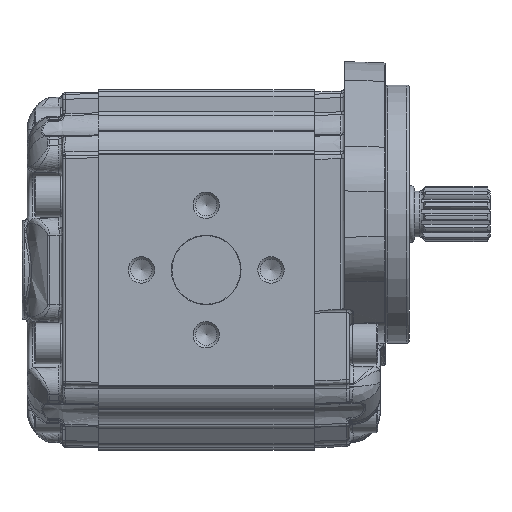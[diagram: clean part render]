
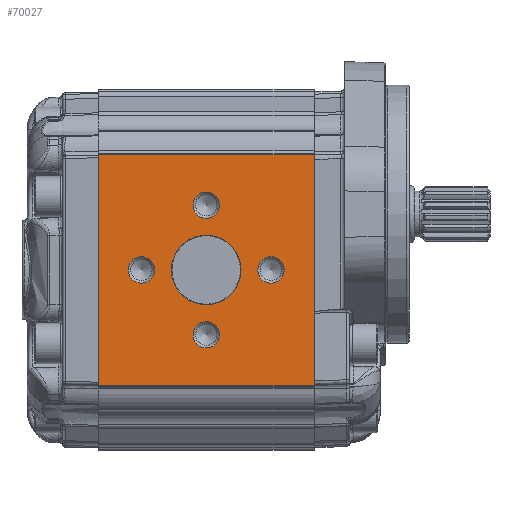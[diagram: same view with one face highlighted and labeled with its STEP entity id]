
A CAD part, left-side view. The second image highlights one B-rep face of the part: STEP entity #70027.
In plain terms, the highlighted planar face has unit normal (-1, 0, 0) as drawn and (1, 0, 0) by its records, which use the part's own axes.
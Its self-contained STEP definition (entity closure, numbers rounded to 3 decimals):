
#8105=LINE('',#122467,#10119);
#8116=LINE('',#122551,#10130);
#8162=LINE('',#122717,#10176);
#8163=LINE('',#122718,#10177);
#10119=VECTOR('',#77549,1000.);
#10130=VECTOR('',#77624,1000.);
#10176=VECTOR('',#77802,1000.);
#10177=VECTOR('',#77803,1000.);
#16526=ORIENTED_EDGE('',*,*,#29327,.T.);
#16527=ORIENTED_EDGE('',*,*,#29328,.T.);
#16528=ORIENTED_EDGE('',*,*,#29329,.T.);
#16529=ORIENTED_EDGE('',*,*,#29330,.T.);
#16530=ORIENTED_EDGE('',*,*,#29331,.T.);
#16531=ORIENTED_EDGE('',*,*,#29202,.F.);
#16532=ORIENTED_EDGE('',*,*,#29332,.T.);
#16533=ORIENTED_EDGE('',*,*,#29244,.F.);
#16534=ORIENTED_EDGE('',*,*,#29333,.T.);
#29202=EDGE_CURVE('',#35928,#35929,#8105,.T.);
#29244=EDGE_CURVE('',#35970,#35971,#8116,.T.);
#29327=EDGE_CURVE('',#36019,#36019,#39824,.F.);
#29328=EDGE_CURVE('',#36020,#36020,#39825,.F.);
#29329=EDGE_CURVE('',#36021,#36021,#39826,.F.);
#29330=EDGE_CURVE('',#36022,#36022,#39827,.F.);
#29331=EDGE_CURVE('',#36023,#36023,#39828,.F.);
#29332=EDGE_CURVE('',#35928,#35971,#8162,.F.);
#29333=EDGE_CURVE('',#35970,#35929,#8163,.F.);
#35928=VERTEX_POINT('',#122466);
#35929=VERTEX_POINT('',#122468);
#35970=VERTEX_POINT('',#122552);
#35971=VERTEX_POINT('',#122553);
#36019=VERTEX_POINT('',#122708);
#36020=VERTEX_POINT('',#122710);
#36021=VERTEX_POINT('',#122712);
#36022=VERTEX_POINT('',#122714);
#36023=VERTEX_POINT('',#122716);
#39824=CIRCLE('',#73302,5.188);
#39825=CIRCLE('',#73303,5.188);
#39826=CIRCLE('',#73304,5.188);
#39827=CIRCLE('',#73305,5.188);
#39828=CIRCLE('',#73306,13.7);
#41152=EDGE_LOOP('',(#16526));
#41153=EDGE_LOOP('',(#16527));
#41154=EDGE_LOOP('',(#16528));
#41155=EDGE_LOOP('',(#16529));
#41156=EDGE_LOOP('',(#16530));
#41157=EDGE_LOOP('',(#16531,#16532,#16533,#16534));
#44498=FACE_BOUND('',#41152,.T.);
#44499=FACE_BOUND('',#41153,.T.);
#44500=FACE_BOUND('',#41154,.T.);
#44501=FACE_BOUND('',#41155,.T.);
#44502=FACE_BOUND('',#41156,.T.);
#44503=FACE_BOUND('',#41157,.T.);
#46937=PLANE('',#73301);
#70027=ADVANCED_FACE('',(#44498,#44499,#44500,#44501,#44502,#44503),#46937,
 .T.);
#73301=AXIS2_PLACEMENT_3D('',#122706,#77790,#77791);
#73302=AXIS2_PLACEMENT_3D('',#122707,#77792,#77793);
#73303=AXIS2_PLACEMENT_3D('',#122709,#77794,#77795);
#73304=AXIS2_PLACEMENT_3D('',#122711,#77796,#77797);
#73305=AXIS2_PLACEMENT_3D('',#122713,#77798,#77799);
#73306=AXIS2_PLACEMENT_3D('',#122715,#77800,#77801);
#77549=DIRECTION('',(0.,0.,-1.));
#77624=DIRECTION('',(0.,0.,1.));
#77790=DIRECTION('',(1.,0.,0.));
#77791=DIRECTION('',(0.,0.,1.));
#77792=DIRECTION('',(1.,0.,0.));
#77793=DIRECTION('',(0.,0.,1.));
#77794=DIRECTION('',(1.,0.,0.));
#77795=DIRECTION('',(0.,0.,1.));
#77796=DIRECTION('',(1.,0.,0.));
#77797=DIRECTION('',(0.,0.,1.));
#77798=DIRECTION('',(1.,0.,0.));
#77799=DIRECTION('',(0.,0.,1.));
#77800=DIRECTION('',(1.,0.,0.));
#77801=DIRECTION('',(0.,0.,1.));
#77802=DIRECTION('',(0.,1.,0.));
#77803=DIRECTION('',(0.,-1.,0.));
#122466=CARTESIAN_POINT('',(57.5,85.,45.5));
#122467=CARTESIAN_POINT('',(57.5,85.,91.388));
#122468=CARTESIAN_POINT('',(57.5,85.,-45.5));
#122551=CARTESIAN_POINT('',(57.5,0.,-44.978));
#122552=CARTESIAN_POINT('',(57.5,0.,-45.5));
#122553=CARTESIAN_POINT('',(57.5,0.,45.5));
#122706=CARTESIAN_POINT('',(57.5,-142.954,91.388));
#122707=CARTESIAN_POINT('',(57.5,42.5,25.5));
#122708=CARTESIAN_POINT('',(57.5,42.5,30.688));
#122709=CARTESIAN_POINT('',(57.5,17.,0.));
#122710=CARTESIAN_POINT('',(57.5,17.,5.188));
#122711=CARTESIAN_POINT('',(57.5,42.5,-25.5));
#122712=CARTESIAN_POINT('',(57.5,42.5,-20.312));
#122713=CARTESIAN_POINT('',(57.5,68.,0.));
#122714=CARTESIAN_POINT('',(57.5,68.,5.188));
#122715=CARTESIAN_POINT('',(57.5,42.5,0.));
#122716=CARTESIAN_POINT('',(57.5,42.5,13.7));
#122717=CARTESIAN_POINT('',(57.5,-142.954,45.5));
#122718=CARTESIAN_POINT('',(57.5,-142.954,-45.5));
